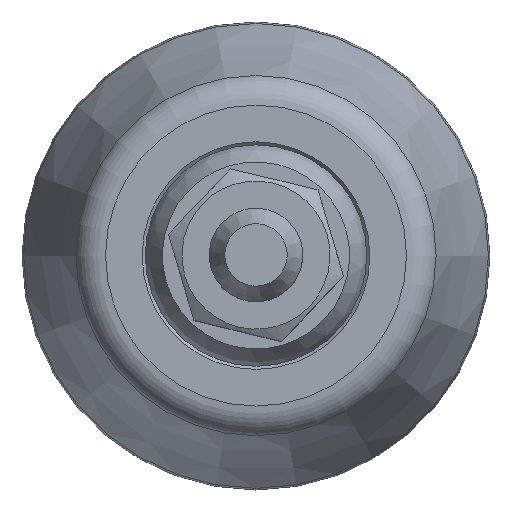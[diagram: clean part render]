
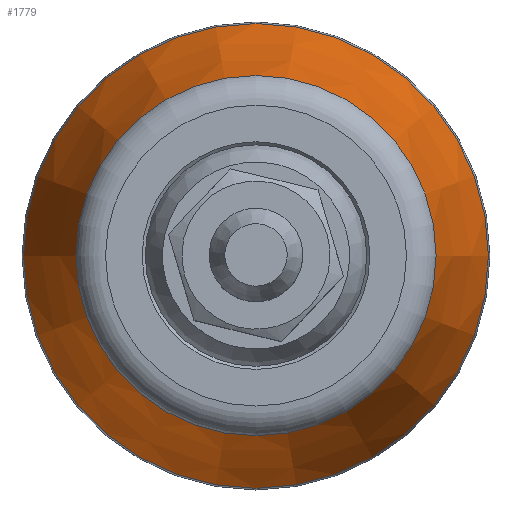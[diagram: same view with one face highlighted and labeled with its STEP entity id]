
A CAD part, top view. The second image highlights one B-rep face of the part: STEP entity #1779.
In plain terms, the highlighted conical face has half-angle 18 degrees and reference radius 13.226 mm.
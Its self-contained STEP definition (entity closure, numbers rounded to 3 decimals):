
#1779=ADVANCED_FACE('',(#3409,#3411),#3413,.T.);
#3409=FACE_BOUND('',#3410,.T.);
#3410=EDGE_LOOP('',(#4598,#4599));
#3411=FACE_BOUND('',#3412,.T.);
#3412=EDGE_LOOP('',(#4600,#4601));
#3413=CONICAL_SURFACE('',#3414,13.226,0.314);
#3414=AXIS2_PLACEMENT_3D('',#3415,#3416,#3417);
#3415=CARTESIAN_POINT('',(0.,0.,11.46));
#3416=DIRECTION('',(0.,0.,-1.));
#3417=DIRECTION('',(1.,0.,0.));
#4598=ORIENTED_EDGE('',*,*,#5217,.T.);
#4599=ORIENTED_EDGE('',*,*,#5216,.T.);
#4600=ORIENTED_EDGE('',*,*,#5220,.F.);
#4601=ORIENTED_EDGE('',*,*,#5221,.F.);
#5216=EDGE_CURVE('',#6064,#6065,#6066,.T.);
#5217=EDGE_CURVE('',#6065,#6064,#6067,.T.);
#5220=EDGE_CURVE('',#6072,#6073,#6074,.T.);
#5221=EDGE_CURVE('',#6073,#6072,#6075,.T.);
#6064=VERTEX_POINT('',#11503);
#6065=VERTEX_POINT('',#11504);
#6066=CIRCLE('',#11505,14.902);
#6067=CIRCLE('',#11509,14.902);
#6072=VERTEX_POINT('',#11523);
#6073=VERTEX_POINT('',#11524);
#6074=CIRCLE('',#11525,11.55);
#6075=CIRCLE('',#11529,11.55);
#11503=CARTESIAN_POINT('',(-14.902,0.,6.301));
#11504=CARTESIAN_POINT('',(14.902,0.,6.301));
#11505=AXIS2_PLACEMENT_3D('',#11506,#11507,#11508);
#11506=CARTESIAN_POINT('',(0.,0.,6.301));
#11507=DIRECTION('',(0.,0.,1.));
#11508=DIRECTION('',(-1.,0.,0.));
#11509=AXIS2_PLACEMENT_3D('',#11510,#11511,#11512);
#11510=CARTESIAN_POINT('',(0.,0.,6.301));
#11511=DIRECTION('',(0.,0.,1.));
#11512=DIRECTION('',(1.,0.,0.));
#11523=CARTESIAN_POINT('',(-11.55,0.,16.618));
#11524=CARTESIAN_POINT('',(11.55,0.,16.618));
#11525=AXIS2_PLACEMENT_3D('',#11526,#11527,#11528);
#11526=CARTESIAN_POINT('',(0.,0.,16.618));
#11527=DIRECTION('',(0.,0.,1.));
#11528=DIRECTION('',(-1.,0.,0.));
#11529=AXIS2_PLACEMENT_3D('',#11530,#11531,#11532);
#11530=CARTESIAN_POINT('',(0.,0.,16.618));
#11531=DIRECTION('',(0.,0.,1.));
#11532=DIRECTION('',(1.,0.,0.));
